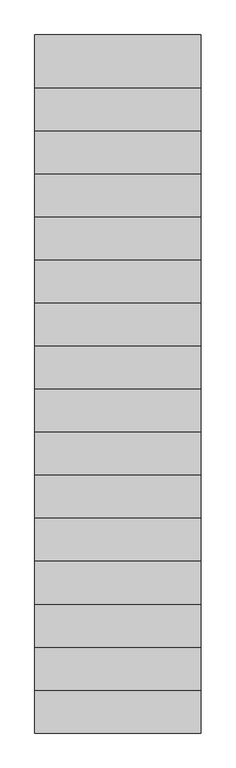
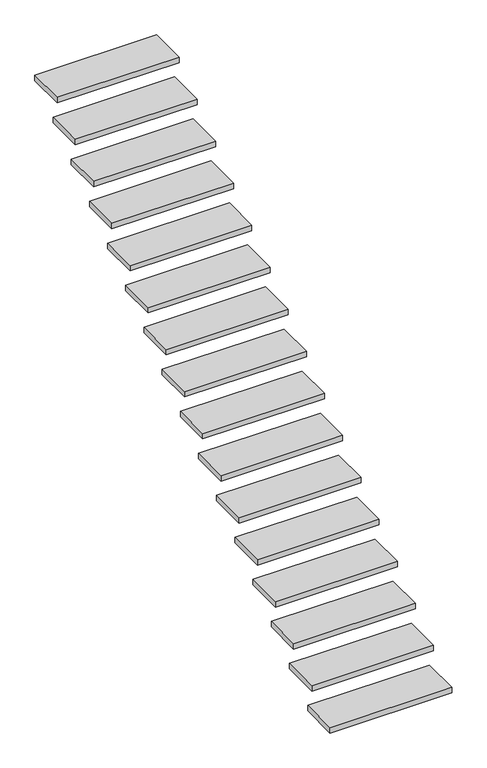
"""IFC4 building model written with IfcOpenShell, lengths in millimetres: stair flight geometry, 24_STR_trede_hout_vuren_40_neus_50."""

from ifc_helpers import new_model, si_unit, frame, origin, place, context, project, spatial, polyline, outline, extrude, source, transform, mapped, element, save


def stair_flight_a9d19ed3(model_context):
    return source(origin(), model_context, "Body", "SweptSolid", [
        extrude(outline(polyline([(21349.8089026, -25054.6322236), (22199.8089026, -25054.6322236), (22199.8089026, -25324.6322236), (21349.8089026, -25324.6322236), (21349.8089026, -25054.6322236)])), frame((0.0, 0.0, 136.4705882), z_axis=(0.0, 0.0, 1.0), x_axis=(1.0, 0.0, 0.0)), (0.0, 0.0, 1.0), 40.0),
        extrude(outline(polyline([(21349.8089026, -24834.6322236), (22199.8089026, -24834.6322236), (22199.8089026, -25104.6322236), (21349.8089026, -25104.6322236), (21349.8089026, -24834.6322236)])), frame((0.0, 0.0, 312.9411765), z_axis=(0.0, 0.0, 1.0), x_axis=(1.0, 0.0, 0.0)), (0.0, 0.0, 1.0), 40.0),
        extrude(outline(polyline([(21349.8089026, -24614.6322236), (22199.8089026, -24614.6322236), (22199.8089026, -24884.6322236), (21349.8089026, -24884.6322236), (21349.8089026, -24614.6322236)])), frame((0.0, 0.0, 489.4117647), z_axis=(0.0, 0.0, 1.0), x_axis=(1.0, 0.0, 0.0)), (0.0, 0.0, 1.0), 40.0),
        extrude(outline(polyline([(21349.8089026, -24394.6322236), (22199.8089026, -24394.6322236), (22199.8089026, -24664.6322236), (21349.8089026, -24664.6322236), (21349.8089026, -24394.6322236)])), frame((0.0, 0.0, 665.8823529), z_axis=(0.0, 0.0, 1.0), x_axis=(1.0, 0.0, 0.0)), (0.0, 0.0, 1.0), 40.0),
        extrude(outline(polyline([(21349.8089026, -24174.6322236), (22199.8089026, -24174.6322236), (22199.8089026, -24444.6322236), (21349.8089026, -24444.6322236), (21349.8089026, -24174.6322236)])), frame((0.0, 0.0, 842.3529412), z_axis=(0.0, 0.0, 1.0), x_axis=(1.0, 0.0, 0.0)), (0.0, 0.0, 1.0), 40.0),
        extrude(outline(polyline([(21349.8089026, -23954.6322236), (22199.8089026, -23954.6322236), (22199.8089026, -24224.6322236), (21349.8089026, -24224.6322236), (21349.8089026, -23954.6322236)])), frame((0.0, 0.0, 1018.8235294), z_axis=(0.0, 0.0, 1.0), x_axis=(1.0, 0.0, 0.0)), (0.0, 0.0, 1.0), 40.0),
        extrude(outline(polyline([(21349.8089026, -23734.6322236), (22199.8089026, -23734.6322236), (22199.8089026, -24004.6322236), (21349.8089026, -24004.6322236), (21349.8089026, -23734.6322236)])), frame((0.0, 0.0, 1195.2941176), z_axis=(0.0, 0.0, 1.0), x_axis=(1.0, 0.0, 0.0)), (0.0, 0.0, 1.0), 40.0),
        extrude(outline(polyline([(21349.8089026, -23514.6322236), (22199.8089026, -23514.6322236), (22199.8089026, -23784.6322236), (21349.8089026, -23784.6322236), (21349.8089026, -23514.6322236)])), frame((0.0, 0.0, 1371.7647059), z_axis=(0.0, 0.0, 1.0), x_axis=(1.0, 0.0, 0.0)), (0.0, 0.0, 1.0), 40.0),
        extrude(outline(polyline([(21349.8089026, -23294.6322236), (22199.8089026, -23294.6322236), (22199.8089026, -23564.6322236), (21349.8089026, -23564.6322236), (21349.8089026, -23294.6322236)])), frame((0.0, 0.0, 1548.2352941), z_axis=(0.0, 0.0, 1.0), x_axis=(1.0, 0.0, 0.0)), (0.0, 0.0, 1.0), 40.0),
        extrude(outline(polyline([(21349.8089026, -23074.6322236), (22199.8089026, -23074.6322236), (22199.8089026, -23344.6322236), (21349.8089026, -23344.6322236), (21349.8089026, -23074.6322236)])), frame((0.0, 0.0, 1724.7058824), z_axis=(0.0, 0.0, 1.0), x_axis=(1.0, 0.0, 0.0)), (0.0, 0.0, 1.0), 40.0),
        extrude(outline(polyline([(21349.8089026, -22854.6322236), (22199.8089026, -22854.6322236), (22199.8089026, -23124.6322236), (21349.8089026, -23124.6322236), (21349.8089026, -22854.6322236)])), frame((0.0, 0.0, 1901.1764706), z_axis=(0.0, 0.0, 1.0), x_axis=(1.0, 0.0, 0.0)), (0.0, 0.0, 1.0), 40.0),
        extrude(outline(polyline([(21349.8089026, -22634.6322236), (22199.8089026, -22634.6322236), (22199.8089026, -22904.6322236), (21349.8089026, -22904.6322236), (21349.8089026, -22634.6322236)])), frame((0.0, 0.0, 2077.6470588), z_axis=(0.0, 0.0, 1.0), x_axis=(1.0, 0.0, 0.0)), (0.0, 0.0, 1.0), 40.0),
        extrude(outline(polyline([(21349.8089026, -22414.6322236), (22199.8089026, -22414.6322236), (22199.8089026, -22684.6322236), (21349.8089026, -22684.6322236), (21349.8089026, -22414.6322236)])), frame((0.0, 0.0, 2254.1176471), z_axis=(0.0, 0.0, 1.0), x_axis=(1.0, 0.0, 0.0)), (0.0, 0.0, 1.0), 40.0),
        extrude(outline(polyline([(21349.8089026, -22194.6322236), (22199.8089026, -22194.6322236), (22199.8089026, -22464.6322236), (21349.8089026, -22464.6322236), (21349.8089026, -22194.6322236)])), frame((0.0, 0.0, 2430.5882353), z_axis=(0.0, 0.0, 1.0), x_axis=(1.0, 0.0, 0.0)), (0.0, 0.0, 1.0), 40.0),
        extrude(outline(polyline([(21349.8089026, -21974.6322236), (22199.8089026, -21974.6322236), (22199.8089026, -22244.6322236), (21349.8089026, -22244.6322236), (21349.8089026, -21974.6322236)])), frame((0.0, 0.0, 2607.0588235), z_axis=(0.0, 0.0, 1.0), x_axis=(1.0, 0.0, 0.0)), (0.0, 0.0, 1.0), 40.0),
        extrude(outline(polyline([(21349.8089026, -21754.6322236), (22199.8089026, -21754.6322236), (22199.8089026, -22024.6322236), (21349.8089026, -22024.6322236), (21349.8089026, -21754.6322236)])), frame((0.0, 0.0, 2783.5294118), z_axis=(0.0, 0.0, 1.0), x_axis=(1.0, 0.0, 0.0)), (0.0, 0.0, 1.0), 40.0),
    ])


if __name__ == "__main__":
    model = new_model("IFC4")
    model_context = context("Model", 3, world=origin())
    ifc_project = project(units=[si_unit("LENGTHUNIT", "METRE", prefix="MILLI")], contexts=[model_context])
    site = spatial("IfcSite", under=ifc_project)
    building = spatial("IfcBuilding", under=site)
    placement = place(None, origin())
    stair_flight_shape = stair_flight_a9d19ed3(model_context)
    element("IfcStairFlight", 1, ObjectType="24_STR_trede_hout_vuren_40_neus_50", at=placement, inside=building, context=model_context, shape_type="MappedRepresentation", body=[
        mapped(stair_flight_shape, transform((0.0, 0.0, 0.0), x_axis=(1.0, 0.0, 0.0), y_axis=(0.0, 1.0, 0.0), z_axis=(0.0, 0.0, 1.0))),
    ])
    save(model, "model.ifc")
